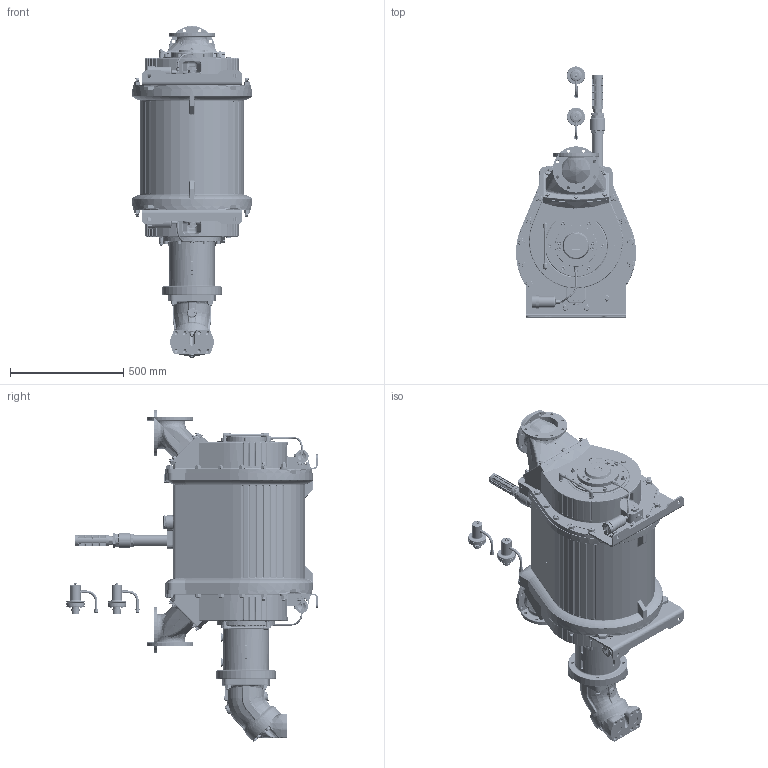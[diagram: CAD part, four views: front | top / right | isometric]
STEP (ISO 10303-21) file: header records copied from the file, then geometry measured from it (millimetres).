
FILE_DESCRIPTION(/* description */ (''),/* implementation_level */ '2;1');
FILE_NAME(/* name */ '1700170.stp',/* time_stamp */ '2026-04-24T10:04:20+02:00',/* author */ ('JJ'),/* organization */ (''),/* preprocessor_version */ 'ST-DEVELOPER v20',/* originating_system */ 'Autodesk Inventor 2025',/* authorisation */ '');
FILE_SCHEMA (('AUTOMOTIVE_DESIGN { 1 0 10303 214 3 1 1 }'));
Products named in the file (69): 1700170; 1659021; 1659049; 910100170; 910200008; 1634823; 1634808; 922000270; 910100021; 910100161; 944600276; 1634824; 1634809; 922000269; 1659046; 1659095; 915000050; 925000587; 925000590; 944600356; 944600355; 1659069; 1659017; 915000217; 910300487; 910100191; 944600240; 915000232; 915000225; 915000225-part1; 915000225-part2; 915000217_1; 1634773; 915000215; 1659080_Simplify_body; 1636087; 1636088; 922000307; 1634666; 1634667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
Assembly tree (163 placements, depth 4):
  1700170
    1659017  x4
    1659069  x4
    1659021  x2
    910100021  x15
    910100161  x15
    910100170  x12
    910200008  x12
    1634823  x2
      1634808
      922000270
    1634826  x2
      1634811
      922000266
    1659049  x2
    944600276  x4
    1659046  x2
    1634824  x2
      1634809
      922000269
    915000050  x2
    1659095
    925000587
    925000590
    944600356
    944600355
    910300487  x2
    910100191  x2
    944600240  x2
    915000232  x2
    915000225  x2
      915000225-part1
      915000225-part2
    1634773  x2
    915000215  x2
    915000217
    915000217_1
    1659080_Simplify_body
    1636087
      1636088
      922000307
    1634666  x2
      1634667
      1634668
      1634130
      1634131
      1634670
      1634134
      910200105
      910100125
      910300428
      921000047
      922100045
      922100339
      1634669
      925000651
      910300012
    925000862  x2
    927000134-TM2500  x2
    1659105
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Bounding box: 528.82 x 1107.24 x 1463.57 mm (x, y, z)
Volume: 179966637.8 mm3; surface area: 7155544.7 mm2
Topology: 183 solids, 201 shells, 12229 faces, 31609 edges, 20312 vertices
Faces by surface type: plane 4402, bspline 3538, cylinder 2647, cone 987, torus 463, sphere 192
Full cylindrical faces by diameter (mm): 1.5 x16, 3 x2, 3.2 x4, 3.3 x4, 3.5 x2, 4 x7, 4.134 x4, 4.917 x2, 4.92 x10, 5 x2, 5.3 x2, 6 x48, 6.1 x2, 6.4 x2, 6.5 x8, 8 x40, 8.376 x14, 8.4 x2, 8.5 x3, 8.57 x2, 9.2 x2, 9.7 x2, 9.8 x4, 10 x190, 10.106 x9, 10.5 x12, 11 x63, 11.18 x2, 11.3 x4, 11.445 x8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
Entity records: 649214 total; most frequent: CARTESIAN_POINT 468465, ORIENTED_EDGE 39596, DIRECTION 30075, EDGE_CURVE 19798, VERTEX_POINT 12690, AXIS2_PLACEMENT_3D 11118, EDGE_LOOP 8682, LINE 7839
